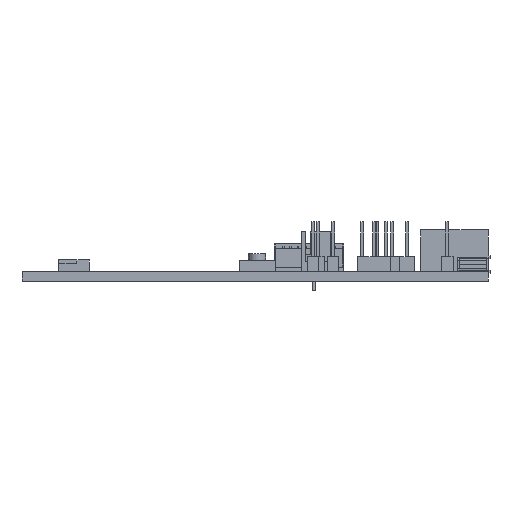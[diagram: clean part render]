
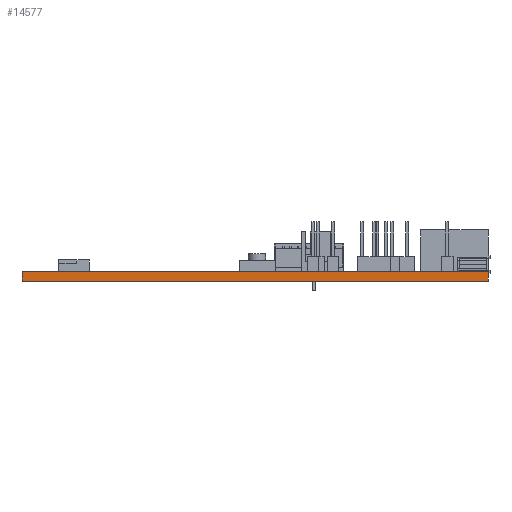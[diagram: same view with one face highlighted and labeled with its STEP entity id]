
A CAD part, left-side view. The second image highlights one B-rep face of the part: STEP entity #14577.
In plain terms, the highlighted planar face has unit normal (-1, 0, 0).
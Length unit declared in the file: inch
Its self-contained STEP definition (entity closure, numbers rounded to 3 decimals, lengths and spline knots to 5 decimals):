
#714 = ORIENTED_EDGE ( 'NONE', *, *, #4014, .T. ) ;
#717 = VERTEX_POINT ( 'NONE', #11815 ) ;
#819 = LINE ( 'NONE', #8017, #4257 ) ;
#2020 = ORIENTED_EDGE ( 'NONE', *, *, #4347, .F. ) ;
#2466 = VECTOR ( 'NONE', #4637, 39.37008 ) ;
#2539 = VECTOR ( 'NONE', #10085, 39.37008 ) ;
#2586 = ORIENTED_EDGE ( 'NONE', *, *, #14510, .T. ) ;
#2807 = CARTESIAN_POINT ( 'NONE',  ( -7.87402, 1.5748, 0. ) ) ;
#3051 = VERTEX_POINT ( 'NONE', #2807 ) ;
#3069 = DIRECTION ( 'NONE',  ( 0., 0., -1. ) ) ;
#3375 = LINE ( 'NONE', #5862, #2466 ) ;
#3567 = ORIENTED_EDGE ( 'NONE', *, *, #9538, .F. ) ;
#4014 = EDGE_CURVE ( 'NONE', #8448, #3051, #12420, .T. ) ;
#4177 = LINE ( 'NONE', #8843, #2539 ) ;
#4257 = VECTOR ( 'NONE', #8942, 39.37008 ) ;
#4268 = CARTESIAN_POINT ( 'NONE',  ( -7.87402, 1.5748, 0.0625 ) ) ;
#4347 = EDGE_CURVE ( 'NONE', #8449, #717, #3375, .T. ) ;
#4352 = DIRECTION ( 'NONE',  ( 1., 0., 0. ) ) ;
#4637 = DIRECTION ( 'NONE',  ( 0., 0., -1. ) ) ;
#5649 = CARTESIAN_POINT ( 'NONE',  ( -7.87402, -1.5748, 0.0625 ) ) ;
#5862 = CARTESIAN_POINT ( 'NONE',  ( -7.87402, -1.5748, 0.0625 ) ) ;
#6664 = PLANE ( 'NONE',  #13090 ) ;
#7499 = CARTESIAN_POINT ( 'NONE',  ( -7.87402, 1.5748, 0.0625 ) ) ;
#7868 = DIRECTION ( 'NONE',  ( 0., 0., -1. ) ) ;
#7945 = FACE_OUTER_BOUND ( 'NONE', #10452, .T. ) ;
#8017 = CARTESIAN_POINT ( 'NONE',  ( -7.87402, -1.5748, 0. ) ) ;
#8360 = VECTOR ( 'NONE', #3069, 39.37008 ) ;
#8448 = VERTEX_POINT ( 'NONE', #7499 ) ;
#8449 = VERTEX_POINT ( 'NONE', #13344 ) ;
#8843 = CARTESIAN_POINT ( 'NONE',  ( -7.87402, -1.5748, 0.0625 ) ) ;
#8942 = DIRECTION ( 'NONE',  ( 0., -1., 0. ) ) ;
#9538 = EDGE_CURVE ( 'NONE', #8448, #8449, #4177, .T. ) ;
#10085 = DIRECTION ( 'NONE',  ( 0., -1., 0. ) ) ;
#10452 = EDGE_LOOP ( 'NONE', ( #2586, #2020, #3567, #714 ) ) ;
#11815 = CARTESIAN_POINT ( 'NONE',  ( -7.87402, -1.5748, 0. ) ) ;
#12420 = LINE ( 'NONE', #4268, #8360 ) ;
#13090 = AXIS2_PLACEMENT_3D ( 'NONE', #5649, #4352, #7868 ) ;
#13344 = CARTESIAN_POINT ( 'NONE',  ( -7.87402, -1.5748, 0.0625 ) ) ;
#14510 = EDGE_CURVE ( 'NONE', #3051, #717, #819, .T. ) ;
#14577 = ADVANCED_FACE ( 'NONE', ( #7945 ), #6664, .F. ) ;
